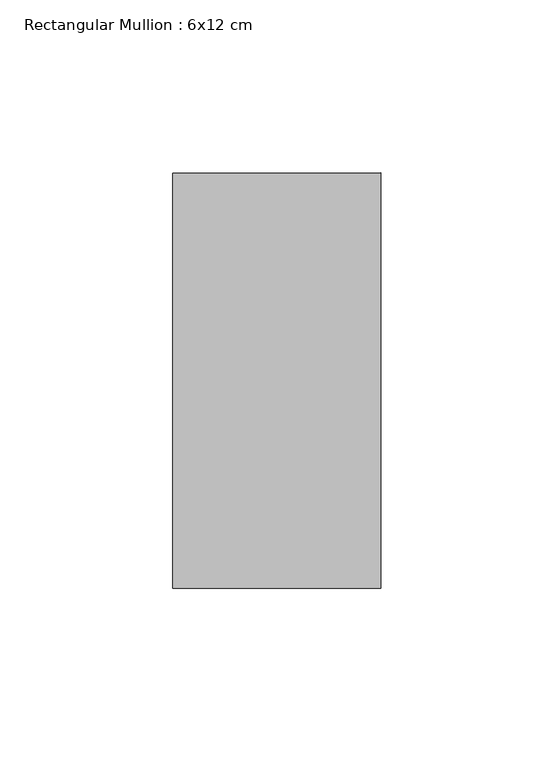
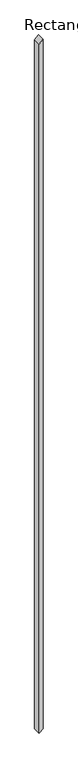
"""IFC4 building model written with IfcOpenShell, lengths in millimetres: member geometry, Rectangular Mullion : 6x12 cm."""

import ifcopenshell
import ifcopenshell.guid

model = None  # the IFC model being written
_history = None  # IfcOwnerHistory: only IFC2X3 demands one
_inside = {}  # id of a spatial element -> (the spatial element, [elements in it])
_under = {}  # id of a project, library or spatial element -> (it, [spatial elements below it])
_declared = {}  # id of a project -> (the project, [libraries it declares])
_typed = {}  # id of a type object -> (the type object, [elements of that type])
_made_of = {}  # id of a material, layer set ... -> (it, [elements and type objects made of it])


def new_model(schema):
    """Start an empty IFC model of exactly this schema.

    Asked for "IFC4X3", IfcOpenShell would pick the latest addendum, in which some entities
    have other attributes; the version numbers below select the first issue.
    IFC2X3 requires an IfcOwnerHistory on every rooted entity: one is made here for all.
    """
    global model, _history
    if schema == "IFC4X3":
        model = ifcopenshell.file(schema_version=(4, 3, 0, 0))
    else:
        model = ifcopenshell.file(schema=schema)
    _inside.clear()
    _under.clear()
    _declared.clear()
    _typed.clear()
    _made_of.clear()
    _history = None
    if model.schema == "IFC2X3":
        org = make("IfcOrganization", Name="unknown")
        user = make(
            "IfcPersonAndOrganization",
            ThePerson=make("IfcPerson", FamilyName="unknown"),
            TheOrganization=org,
        )
        app = make(
            "IfcApplication",
            ApplicationDeveloper=org,
            Version="unknown",
            ApplicationFullName="unknown",
            ApplicationIdentifier="unknown",
        )
        _history = make(
            "IfcOwnerHistory",
            OwningUser=user,
            OwningApplication=app,
            ChangeAction="ADDED",
            CreationDate=0,
        )
    return model


def make(cls, **values):
    """One entity of the class cls with the attributes given. An attribute that is None is left unset."""
    return model.create_entity(
        cls, **{name: value for name, value in values.items() if value is not None}
    )


def rooted(cls, **values):
    """An entity with a GlobalId (a new one), such as an element, a storey or a relation."""
    return make(cls, GlobalId=ifcopenshell.guid.new(), OwnerHistory=_history, **values)


def si_unit(unit_type, name, prefix=None):
    """IfcSIUnit, for example si_unit("LENGTHUNIT", "METRE", prefix="MILLI")."""
    return make("IfcSIUnit", UnitType=unit_type, Prefix=prefix, Name=name)


def assignment(units):
    """IfcUnitAssignment: the units of a project."""
    return None if units is None else make("IfcUnitAssignment", Units=units)


def point(xyz):
    """IfcCartesianPoint."""
    return None if xyz is None else make("IfcCartesianPoint", Coordinates=xyz)


def direction(xyz):
    """IfcDirection."""
    return None if xyz is None else make("IfcDirection", DirectionRatios=xyz)


def frame(location, z_axis=None, x_axis=None):
    """IfcAxis2Placement3D, a coordinate frame: its origin and axes. An axis left out is left unset."""
    return make(
        "IfcAxis2Placement3D",
        Location=point(location),
        Axis=direction(z_axis),
        RefDirection=direction(x_axis),
    )


def origin():
    """The frame at (0, 0, 0) with its axes left unset."""
    return frame((0.0, 0.0, 0.0))


def place(relative_to, where):
    """IfcLocalPlacement: puts the frame where relative to a parent placement (None: the world)."""
    return make(
        "IfcLocalPlacement", PlacementRelTo=relative_to, RelativePlacement=where
    )


def context(
    kind, dimensions, precision=None, world=None, true_north=None, identifier=None
):
    """IfcGeometricRepresentationContext, for example the 3D "Model" context."""
    return make(
        "IfcGeometricRepresentationContext",
        ContextIdentifier=identifier,
        ContextType=kind,
        CoordinateSpaceDimension=dimensions,
        Precision=precision,
        WorldCoordinateSystem=world,
        TrueNorth=true_north,
    )


def project(units=None, contexts=None):
    """IfcProject with its units and contexts."""
    return rooted(
        "IfcProject",
        Name="project",
        RepresentationContexts=contexts,
        UnitsInContext=assignment(units),
    )


def spatial(cls, under=None, at=None, **own):
    """A site, building, storey or space (cls), placed at a placement, below another one or the project."""
    s = rooted(cls, ObjectPlacement=at, **own)
    if under is not None:
        _under.setdefault(under.id(), (under, []))[1].append(s)
    return s


def polyline(points):
    """IfcPolyline through the points."""
    return make("IfcPolyline", Points=[point(p) for p in points])


def outline(outer, holes=None, kind="AREA"):
    """IfcArbitraryClosedProfileDef: a profile drawn as a closed curve; with holes, ...WithVoids."""
    if holes is None:
        return make("IfcArbitraryClosedProfileDef", ProfileType=kind, OuterCurve=outer)
    return make(
        "IfcArbitraryProfileDefWithVoids",
        ProfileType=kind,
        OuterCurve=outer,
        InnerCurves=holes,
    )


def extrude(swept, where, along, depth):
    """IfcExtrudedAreaSolid: the profile swept, set in the frame where, extruded along a direction by depth."""
    return make(
        "IfcExtrudedAreaSolid",
        SweptArea=swept,
        Position=where,
        ExtrudedDirection=direction(along),
        Depth=depth,
    )


def shape(context_of_items, identifier, shape_type, items):
    """IfcShapeRepresentation: the items that make up one representation, for example the "Body"."""
    return make(
        "IfcShapeRepresentation",
        ContextOfItems=context_of_items,
        RepresentationIdentifier=identifier,
        RepresentationType=shape_type,
        Items=items,
    )


def source(mapping_origin, context_of_items, identifier, shape_type, items):
    """IfcRepresentationMap: a shape defined once, which mapped items show again and again."""
    return make(
        "IfcRepresentationMap",
        MappingOrigin=mapping_origin,
        MappedRepresentation=shape(context_of_items, identifier, shape_type, items),
    )


def transform(
    local_origin,
    x_axis=None,
    y_axis=None,
    z_axis=None,
    scale=None,
    scale2=None,
    scale3=None,
    uniform=True,
):
    """IfcCartesianTransformationOperator3D, or its non-uniform kind. x_axis, y_axis, z_axis: its Axis1, 2, 3."""
    if uniform:
        return make(
            "IfcCartesianTransformationOperator3D",
            Axis1=direction(x_axis),
            Axis2=direction(y_axis),
            LocalOrigin=point(local_origin),
            Scale=scale,
            Axis3=direction(z_axis),
        )
    return make(
        "IfcCartesianTransformationOperator3DnonUniform",
        Axis1=direction(x_axis),
        Axis2=direction(y_axis),
        LocalOrigin=point(local_origin),
        Scale=scale,
        Axis3=direction(z_axis),
        Scale2=scale2,
        Scale3=scale3,
    )


def mapped(mapping_source, mapping_target):
    """IfcMappedItem: shows the shape of a source again, moved by a transform."""
    return make(
        "IfcMappedItem", MappingSource=mapping_source, MappingTarget=mapping_target
    )


def made_of(thing, what):
    """Note that an element or type object is made of a material, layer set ...; save() writes the relation."""
    if what is not None:
        _made_of.setdefault(what.id(), (what, []))[1].append(thing)
    return thing


def element(
    cls,
    number,
    at=None,
    inside=None,
    cuts=None,
    type_object=None,
    material=None,
    context=None,
    identifier="Body",
    shape_type=None,
    held_by="IfcProductDefinitionShape",
    body=None,
    shapes=None,
    **own,
):
    """One element of the class cls, such as IfcWall. Its Tag is "e" and its number.

    at: its placement. inside: the storey or other place that contains it. cuts: it is an
    opening in that element (IfcRelVoidsElement). A single representation is given by context,
    identifier, shape_type and body (its items); several are given by shapes. held_by: the class
    of the entity that holds the representations. save() writes the other relations.
    """
    e = rooted(cls, Tag="e%d" % number, ObjectPlacement=at, **own)
    if body is not None:
        shapes = [shape(context, identifier, shape_type, body)]
    if shapes is not None:
        e.Representation = make(held_by, Representations=shapes)
    if inside is not None:
        _inside.setdefault(inside.id(), (inside, []))[1].append(e)
    if cuts is not None:
        rooted(
            "IfcRelVoidsElement", RelatingBuildingElement=cuts, RelatedOpeningElement=e
        )
    if type_object is not None:
        _typed.setdefault(type_object.id(), (type_object, []))[1].append(e)
    return made_of(e, material)


def aggregate(whole, parts):
    """IfcRelAggregates: a whole, such as a stair, and the parts it consists of."""
    return rooted("IfcRelAggregates", RelatingObject=whole, RelatedObjects=parts)


def save(model, path):
    """Write the relations noted so far, then the file.

    IfcRelAggregates (storeys below a building ...), IfcRelContainedInSpatialStructure (elements
    in a storey), IfcRelDefinesByType, IfcRelAssociatesMaterial and IfcRelDeclares: one each for
    every whole, place, type object, material and project.
    """
    for whole, parts in _under.values():
        aggregate(whole, parts)
    for where, things in _inside.values():
        rooted(
            "IfcRelContainedInSpatialStructure",
            RelatedElements=things,
            RelatingStructure=where,
        )
    for kind, things in _typed.values():
        rooted("IfcRelDefinesByType", RelatedObjects=things, RelatingType=kind)
    for what, things in _made_of.values():
        rooted("IfcRelAssociatesMaterial", RelatedObjects=things, RelatingMaterial=what)
    for by, libraries in _declared.values():
        rooted("IfcRelDeclares", RelatingContext=by, RelatedDefinitions=libraries)
    model.write(path)


def rectangular_mullion_6x12_cm_fb233333(model_context):
    return source(origin(), model_context, "Body", "SweptSolid", [
        extrude(outline(polyline([(-53.9488065, 30.0), (-109.2582939, -30.0), (-11375.8762824, -30.0), (-11324.9915539, 30.0), (-53.9488065, 30.0)])), frame((0.0, 85.0, 0.0), z_axis=(0.0, 1.0, 0.0), x_axis=(0.0, 0.0, 1.0)), (0.0, 0.0, 1.0), 120.0),
    ])


if __name__ == "__main__":
    model = new_model("IFC4")
    model_context = context("Model", 3, world=origin())
    ifc_project = project(units=[si_unit("LENGTHUNIT", "METRE", prefix="MILLI")], contexts=[model_context])
    site = spatial("IfcSite", under=ifc_project)
    building = spatial("IfcBuilding", under=site)
    placement = place(None, origin())
    rectangular_mullion_6x12_cm_shape = rectangular_mullion_6x12_cm_fb233333(model_context)
    element("IfcMember", 1, ObjectType="Rectangular Mullion : 6x12 cm", at=placement, inside=building, context=model_context, shape_type="MappedRepresentation", body=[
        mapped(rectangular_mullion_6x12_cm_shape, transform((0.0, 0.0, 0.0), x_axis=(1.0, 0.0, 0.0), y_axis=(0.0, 1.0, 0.0), z_axis=(0.0, 0.0, 1.0))),
    ])
    save(model, "model.ifc")
